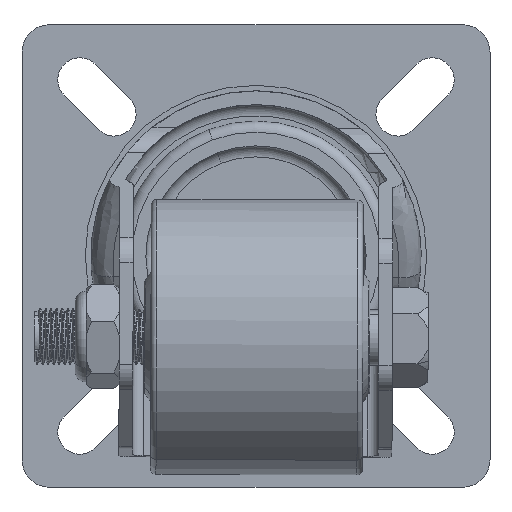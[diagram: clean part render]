
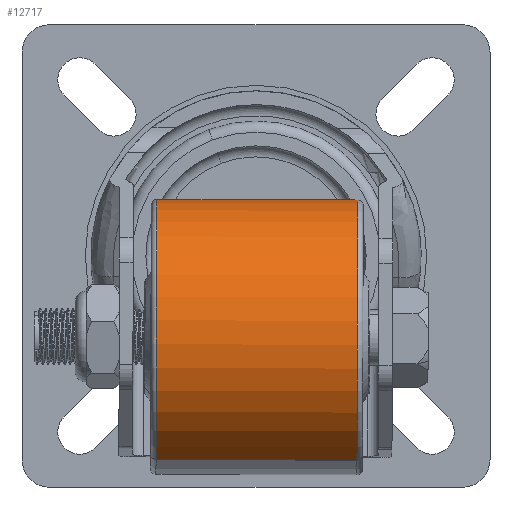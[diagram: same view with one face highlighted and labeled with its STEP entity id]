
A CAD part, front view. The second image highlights one B-rep face of the part: STEP entity #12717.
In plain terms, the highlighted cylindrical face has radius 25 mm (diameter 50 mm), a partial arc.
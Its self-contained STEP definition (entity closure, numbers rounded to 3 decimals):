
#226 = EDGE_LOOP ( 'NONE', ( #18512, #31293, #14396, #17888 ) ) ;
#805 = CARTESIAN_POINT ( 'NONE',  ( 0., -18.25, -25. ) ) ;
#4790 = DIRECTION ( 'NONE',  ( 0., -1., 0. ) ) ;
#5499 = VERTEX_POINT ( 'NONE', #27822 ) ;
#6078 = EDGE_CURVE ( 'NONE', #18353, #6363, #20601, .T. ) ;
#6275 = DIRECTION ( 'NONE',  ( 0., -1., 0. ) ) ;
#6280 = VERTEX_POINT ( 'NONE', #31261 ) ;
#6363 = VERTEX_POINT ( 'NONE', #805 ) ;
#6446 = EDGE_CURVE ( 'NONE', #5499, #6363, #28588, .T. ) ;
#9243 = CARTESIAN_POINT ( 'NONE',  ( 0., 0., 0. ) ) ;
#10139 = VECTOR ( 'NONE', #4790, 1000. ) ;
#10593 = EDGE_CURVE ( 'NONE', #18353, #6280, #12904, .T. ) ;
#12717 = ADVANCED_FACE ( 'NONE', ( #20862 ), #25794, .T. ) ;
#12904 = CIRCLE ( 'NONE', #20027, 25. ) ;
#13713 = DIRECTION ( 'NONE',  ( 0., -1., 0. ) ) ;
#14396 = ORIENTED_EDGE ( 'NONE', *, *, #6446, .T. ) ;
#14522 = CARTESIAN_POINT ( 'NONE',  ( 0., 0., 25. ) ) ;
#15998 = CARTESIAN_POINT ( 'NONE',  ( 0., 0., -25. ) ) ;
#16646 = EDGE_CURVE ( 'NONE', #6280, #5499, #29157, .T. ) ;
#16929 = VECTOR ( 'NONE', #6275, 1000. ) ;
#17475 = DIRECTION ( 'NONE',  ( 0., 0., 1. ) ) ;
#17888 = ORIENTED_EDGE ( 'NONE', *, *, #6078, .F. ) ;
#18346 = CARTESIAN_POINT ( 'NONE',  ( 0., -18.25, 0. ) ) ;
#18353 = VERTEX_POINT ( 'NONE', #26697 ) ;
#18512 = ORIENTED_EDGE ( 'NONE', *, *, #10593, .T. ) ;
#20027 = AXIS2_PLACEMENT_3D ( 'NONE', #24777, #27465, #17475 ) ;
#20601 = LINE ( 'NONE', #15998, #16929 ) ;
#20862 = FACE_OUTER_BOUND ( 'NONE', #226, .T. ) ;
#24014 = AXIS2_PLACEMENT_3D ( 'NONE', #18346, #25333, #27870 ) ;
#24432 = AXIS2_PLACEMENT_3D ( 'NONE', #9243, #13713, #28500 ) ;
#24777 = CARTESIAN_POINT ( 'NONE',  ( 0., 18.25, 0. ) ) ;
#25333 = DIRECTION ( 'NONE',  ( 0., 1., 0. ) ) ;
#25794 = CYLINDRICAL_SURFACE ( 'NONE', #24432, 25. ) ;
#26697 = CARTESIAN_POINT ( 'NONE',  ( 0., 18.25, -25. ) ) ;
#27465 = DIRECTION ( 'NONE',  ( 0., -1., 0. ) ) ;
#27822 = CARTESIAN_POINT ( 'NONE',  ( 0., -18.25, 25. ) ) ;
#27870 = DIRECTION ( 'NONE',  ( 0., 0., -1. ) ) ;
#28500 = DIRECTION ( 'NONE',  ( 0., 0., -1. ) ) ;
#28588 = CIRCLE ( 'NONE', #24014, 25. ) ;
#29157 = LINE ( 'NONE', #14522, #10139 ) ;
#31261 = CARTESIAN_POINT ( 'NONE',  ( 0., 18.25, 25. ) ) ;
#31293 = ORIENTED_EDGE ( 'NONE', *, *, #16646, .T. ) ;
